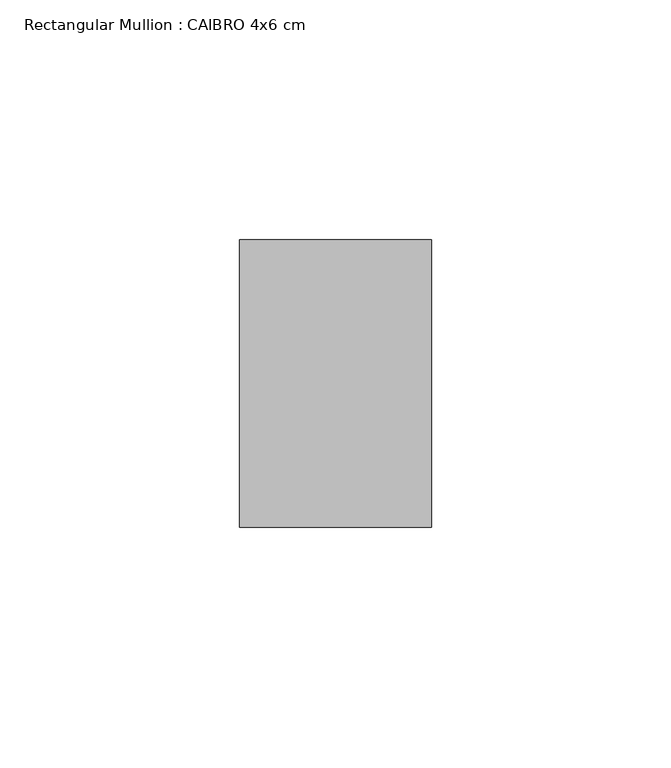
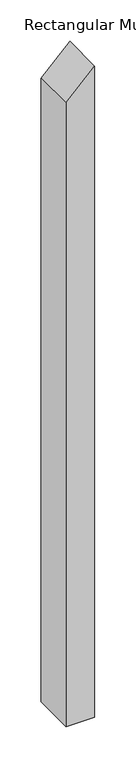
"""IFC4 building model written with IfcOpenShell, lengths in millimetres: member geometry, Rectangular Mullion : CAIBRO 4x6 cm."""

from ifc_helpers import new_model, si_unit, frame, origin, place, context, project, spatial, polyline, outline, extrude, source, transform, mapped, element, save


def rectangular_mullion_caibro_4x6_cm_82faaf76(model_context):
    return source(origin(), model_context, "Body", "SweptSolid", [
        extrude(outline(polyline([(-36.6621022, 20.0), (-77.109599, -20.0), (-996.7898323, -20.0), (-996.7898323, 20.0), (-36.6621022, 20.0)])), frame((0.0, 0.0, 0.0), z_axis=(0.0, 1.0, 0.0), x_axis=(0.0, 0.0, 1.0)), (0.0, 0.0, 1.0), 60.0),
    ])


if __name__ == "__main__":
    model = new_model("IFC4")
    model_context = context("Model", 3, world=origin())
    ifc_project = project(units=[si_unit("LENGTHUNIT", "METRE", prefix="MILLI")], contexts=[model_context])
    site = spatial("IfcSite", under=ifc_project)
    building = spatial("IfcBuilding", under=site)
    placement = place(None, origin())
    rectangular_mullion_caibro_4x6_cm_shape = rectangular_mullion_caibro_4x6_cm_82faaf76(model_context)
    element("IfcMember", 1, ObjectType="Rectangular Mullion : CAIBRO 4x6 cm", at=placement, inside=building, context=model_context, shape_type="MappedRepresentation", body=[
        mapped(rectangular_mullion_caibro_4x6_cm_shape, transform((0.0, 0.0, 0.0), x_axis=(1.0, 0.0, 0.0), y_axis=(0.0, 1.0, 0.0), z_axis=(0.0, 0.0, 1.0))),
    ])
    save(model, "model.ifc")
